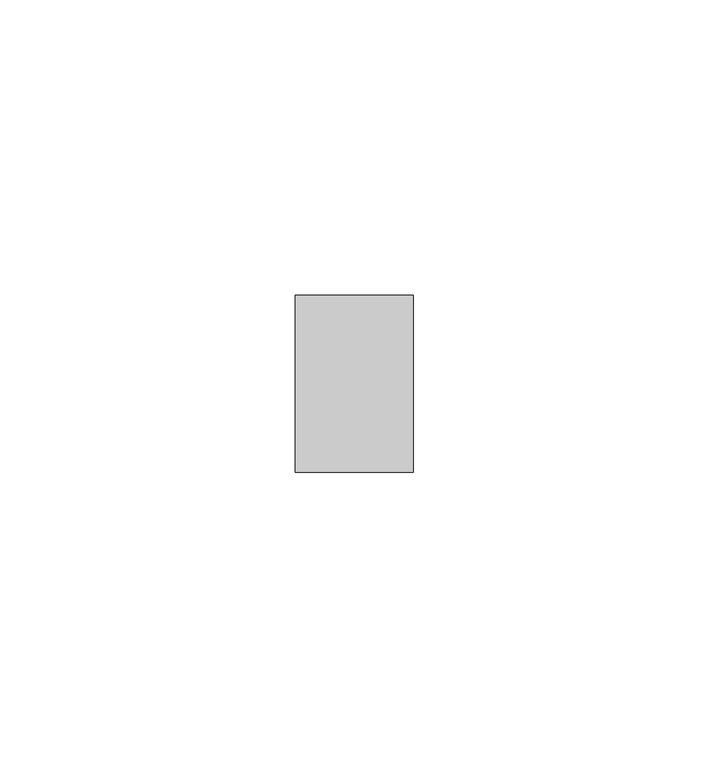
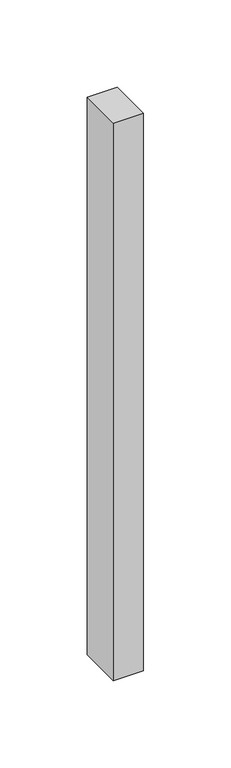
"""IFC4 building model written with IfcOpenShell, lengths in millimetres: member geometry, Прямоугольный импост : Квадрат 10 мм - Зазор между навесными плитами."""

from ifc_helpers import new_model, si_unit, frame, origin, place, context, project, spatial, polyline, outline, extrude, source, transform, mapped, element, save


def member_bf82f3d0(model_context):
    return source(origin(), model_context, "Body", "SweptSolid", [
        extrude(outline(polyline([(0.0, 15.0), (0.0, -15.0), (-20.0, -15.0), (-20.0, 15.0), (0.0, 15.0)])), frame((0.0, 0.0, -390.9273028), z_axis=(0.0, 0.0, 1.0), x_axis=(1.0, 0.0, 0.0)), (0.0, 0.0, 1.0), 390.9273028),
    ])


if __name__ == "__main__":
    model = new_model("IFC4")
    model_context = context("Model", 3, world=origin())
    ifc_project = project(units=[si_unit("LENGTHUNIT", "METRE", prefix="MILLI")], contexts=[model_context])
    site = spatial("IfcSite", under=ifc_project)
    building = spatial("IfcBuilding", under=site)
    placement = place(None, origin())
    member_shape = member_bf82f3d0(model_context)
    element("IfcMember", 1, ObjectType="Прямоугольный импост : Квадрат 10 мм - Зазор между навесными плитами", at=placement, inside=building, context=model_context, shape_type="MappedRepresentation", body=[
        mapped(member_shape, transform((0.0, 0.0, 0.0), x_axis=(1.0, 0.0, 0.0), y_axis=(0.0, 1.0, 0.0), z_axis=(0.0, 0.0, 1.0))),
    ])
    save(model, "model.ifc")
